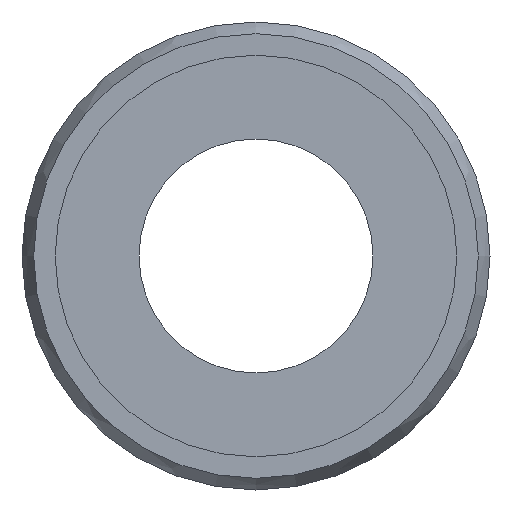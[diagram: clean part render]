
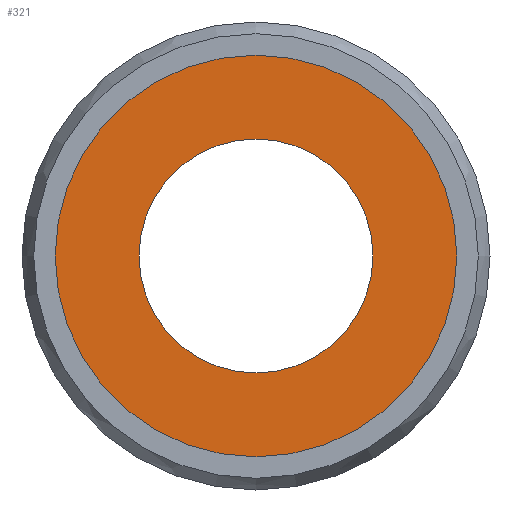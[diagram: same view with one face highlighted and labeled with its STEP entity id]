
A CAD part, left-side view. The second image highlights one B-rep face of the part: STEP entity #321.
In plain terms, the highlighted planar face has unit normal (-1, 0, 0).
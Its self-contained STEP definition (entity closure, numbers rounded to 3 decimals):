
#287=CARTESIAN_POINT('',(0.1,0.0,5.15));
#288=VERTEX_POINT('',#287);
#289=CARTESIAN_POINT('',(0.1,0.0,0.));
#290=DIRECTION('',(-1.0,0.0,0.0));
#291=DIRECTION('',(0.0,0.0,1.0));
#292=AXIS2_PLACEMENT_3D('',#289,#290,#291);
#293=CIRCLE('',#292,5.15);
#294=EDGE_CURVE('',#288,#288,#293,.T.);
#302=CARTESIAN_POINT('',(0.1,0.0,4.075));
#303=DIRECTION('',(-1.0,0.0,0.0));
#304=DIRECTION('',(0.0,0.0,1.0));
#305=AXIS2_PLACEMENT_3D('',#302,#303,#304);
#306=PLANE('',#305);
#307=ORIENTED_EDGE('',*,*,#294,.T.);
#308=EDGE_LOOP('',(#307));
#309=FACE_OUTER_BOUND('',#308,.T.);
#310=CARTESIAN_POINT('',(0.1,0.0,3.));
#311=VERTEX_POINT('',#310);
#312=CARTESIAN_POINT('',(0.1,0.0,0.));
#313=DIRECTION('',(-1.0,0.0,0.0));
#314=DIRECTION('',(0.0,0.0,1.0));
#315=AXIS2_PLACEMENT_3D('',#312,#313,#314);
#316=CIRCLE('',#315,3.);
#317=EDGE_CURVE('',#311,#311,#316,.T.);
#318=ORIENTED_EDGE('',*,*,#317,.F.);
#319=EDGE_LOOP('',(#318));
#320=FACE_BOUND('',#319,.T.);
#321=ADVANCED_FACE('',(#309,#320),#306,.T.);
